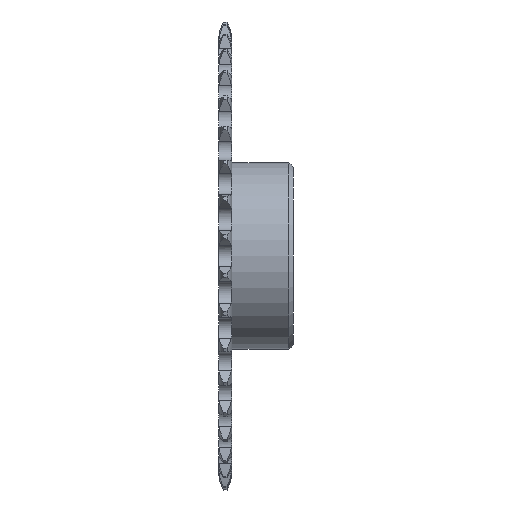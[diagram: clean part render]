
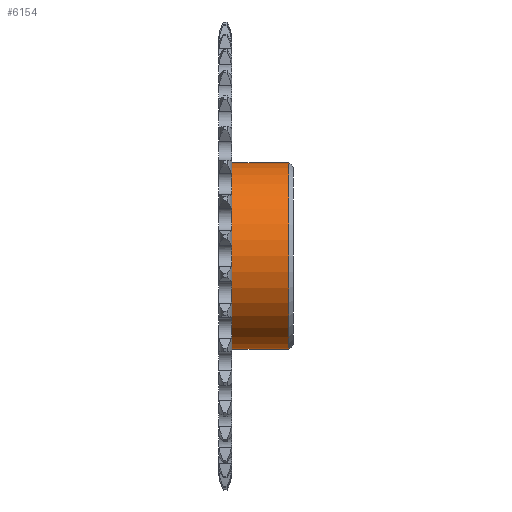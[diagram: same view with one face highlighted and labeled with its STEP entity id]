
A CAD part, front view. The second image highlights one B-rep face of the part: STEP entity #6154.
In plain terms, the highlighted cylindrical face has radius 20 mm (diameter 40 mm), a full revolution.
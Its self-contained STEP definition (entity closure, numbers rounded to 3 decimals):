
#598=CYLINDRICAL_SURFACE('',#6819,20.);
#933=LINE('',#11815,#1271);
#1271=VECTOR('',#8441,20.);
#1598=FACE_OUTER_BOUND('',#1931,.T.);
#1931=EDGE_LOOP('',(#5757,#5758,#5759,#5760));
#2251=CIRCLE('',#6818,20.);
#2252=CIRCLE('',#6820,20.);
#2890=VERTEX_POINT('',#11810);
#2891=VERTEX_POINT('',#11813);
#3846=EDGE_CURVE('',#2890,#2890,#2251,.T.);
#3847=EDGE_CURVE('',#2891,#2891,#2252,.T.);
#3848=EDGE_CURVE('',#2891,#2890,#933,.T.);
#5757=ORIENTED_EDGE('',*,*,#3847,.F.);
#5758=ORIENTED_EDGE('',*,*,#3848,.T.);
#5759=ORIENTED_EDGE('',*,*,#3846,.T.);
#5760=ORIENTED_EDGE('',*,*,#3848,.F.);
#6154=ADVANCED_FACE('',(#1598),#598,.T.);
#6818=AXIS2_PLACEMENT_3D('',#11811,#8435,#8436);
#6819=AXIS2_PLACEMENT_3D('',#11812,#8437,#8438);
#6820=AXIS2_PLACEMENT_3D('',#11814,#8439,#8440);
#8435=DIRECTION('center_axis',(1.,0.,0.));
#8436=DIRECTION('ref_axis',(0.,0.,-1.));
#8437=DIRECTION('center_axis',(1.,0.,0.));
#8438=DIRECTION('ref_axis',(0.,1.,0.));
#8439=DIRECTION('center_axis',(1.,0.,0.));
#8440=DIRECTION('ref_axis',(0.,0.,-1.));
#8441=DIRECTION('',(-1.,0.,0.));
#11810=CARTESIAN_POINT('',(2.8,-20.,0.));
#11811=CARTESIAN_POINT('Origin',(2.8,0.,0.));
#11812=CARTESIAN_POINT('Origin',(8.9,0.,0.));
#11813=CARTESIAN_POINT('',(15.,-20.,0.));
#11814=CARTESIAN_POINT('Origin',(15.,0.,0.));
#11815=CARTESIAN_POINT('',(8.9,-20.,0.));
